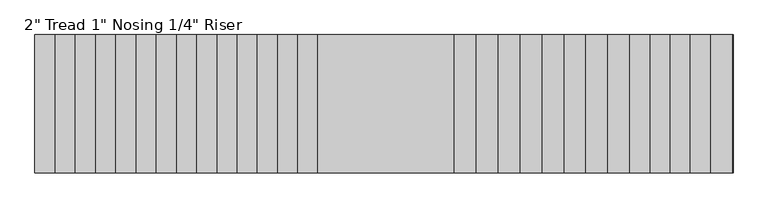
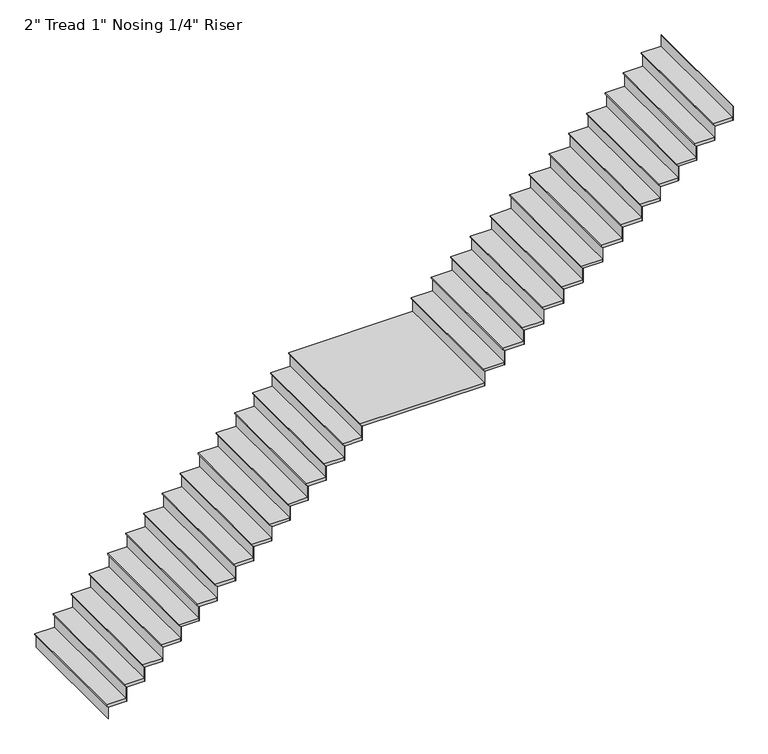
"""IFC4 building model written with IfcOpenShell, lengths in millimetres: stair flight geometry."""

from ifc_helpers import new_model, si_unit, frame, origin, place, context, project, spatial, polyline, outline, extrude, source, transform, mapped, element, save


def stair_flight_284d5711(model_context):
    return source(origin(), model_context, "Body", "SweptSolid", [
        extrude(outline(polyline([(-7674.0141901, 76712.7573777), (-7674.0141901, 76387.3573777), (-7693.0641901, 76387.3573777), (-7718.4641901, 76412.7573777), (-7724.8141901, 76412.7573777), (-7724.8141901, 76712.7573777), (-7674.0141901, 76712.7573777)])), frame((0.0, 21873.3920265, 0.0), z_axis=(0.0, 1.0, 0.0), x_axis=(0.0, 0.0, 1.0)), (0.0, 0.0, 1.0), 2050.0),
        extrude(outline(polyline([(76419.1073777, 21873.3920265), (76412.7573777, 21873.3920265), (76412.7573777, 23923.3920265), (76419.1073777, 23923.3920265), (76419.1073777, 21873.3920265)])), frame((0.0, 0.0, -7920.0), z_axis=(0.0, 0.0, 1.0), x_axis=(1.0, 0.0, 0.0)), (0.0, 0.0, 1.0), 195.1858099),
        extrude(outline(polyline([(76719.1073777, 21873.3920265), (76712.7573777, 21873.3920265), (76712.7573777, 23923.3920265), (76719.1073777, 23923.3920265), (76719.1073777, 21873.3920265)])), frame((0.0, 0.0, -7724.8141901), z_axis=(0.0, 0.0, 1.0), x_axis=(1.0, 0.0, 0.0)), (0.0, 0.0, 1.0), 245.9858099),
        extrude(outline(polyline([(-7428.0283802, 77012.7573777), (-7428.0283802, 76687.3573777), (-7447.0783802, 76687.3573777), (-7472.4783802, 76712.7573777), (-7478.8283802, 76712.7573777), (-7478.8283802, 77012.7573777), (-7428.0283802, 77012.7573777)])), frame((0.0, 21873.3920265, 0.0), z_axis=(0.0, 1.0, 0.0), x_axis=(0.0, 0.0, 1.0)), (0.0, 0.0, 1.0), 2050.0),
        extrude(outline(polyline([(77019.1073777, 21873.3920265), (77012.7573777, 21873.3920265), (77012.7573777, 23923.3920265), (77019.1073777, 23923.3920265), (77019.1073777, 21873.3920265)])), frame((0.0, 0.0, -7478.8283802), z_axis=(0.0, 0.0, 1.0), x_axis=(1.0, 0.0, 0.0)), (0.0, 0.0, 1.0), 245.9858099),
        extrude(outline(polyline([(-7182.0425703, 77312.7573777), (-7182.0425703, 76987.3573777), (-7201.0925703, 76987.3573777), (-7226.4925703, 77012.7573777), (-7232.8425703, 77012.7573777), (-7232.8425703, 77312.7573777), (-7182.0425703, 77312.7573777)])), frame((0.0, 21873.3920265, 0.0), z_axis=(0.0, 1.0, 0.0), x_axis=(0.0, 0.0, 1.0)), (0.0, 0.0, 1.0), 2050.0),
        extrude(outline(polyline([(77319.1073777, 21873.3920265), (77312.7573777, 21873.3920265), (77312.7573777, 23923.3920265), (77319.1073777, 23923.3920265), (77319.1073777, 21873.3920265)])), frame((0.0, 0.0, -7232.8425703), z_axis=(0.0, 0.0, 1.0), x_axis=(1.0, 0.0, 0.0)), (0.0, 0.0, 1.0), 245.9858099),
        extrude(outline(polyline([(-6936.0567604, 77612.7573777), (-6936.0567604, 77287.3573777), (-6955.1067604, 77287.3573777), (-6980.5067604, 77312.7573777), (-6986.8567604, 77312.7573777), (-6986.8567604, 77612.7573777), (-6936.0567604, 77612.7573777)])), frame((0.0, 21873.3920265, 0.0), z_axis=(0.0, 1.0, 0.0), x_axis=(0.0, 0.0, 1.0)), (0.0, 0.0, 1.0), 2050.0),
        extrude(outline(polyline([(77619.1073777, 21873.3920265), (77612.7573777, 21873.3920265), (77612.7573777, 23923.3920265), (77619.1073777, 23923.3920265), (77619.1073777, 21873.3920265)])), frame((0.0, 0.0, -6986.8567604), z_axis=(0.0, 0.0, 1.0), x_axis=(1.0, 0.0, 0.0)), (0.0, 0.0, 1.0), 245.9858099),
        extrude(outline(polyline([(-6690.0709505, 77912.7573777), (-6690.0709505, 77587.3573777), (-6709.1209505, 77587.3573777), (-6734.5209505, 77612.7573777), (-6740.8709505, 77612.7573777), (-6740.8709505, 77912.7573777), (-6690.0709505, 77912.7573777)])), frame((0.0, 21873.3920265, 0.0), z_axis=(0.0, 1.0, 0.0), x_axis=(0.0, 0.0, 1.0)), (0.0, 0.0, 1.0), 2050.0),
        extrude(outline(polyline([(77919.1073777, 21873.3920265), (77912.7573777, 21873.3920265), (77912.7573777, 23923.3920265), (77919.1073777, 23923.3920265), (77919.1073777, 21873.3920265)])), frame((0.0, 0.0, -6740.8709505), z_axis=(0.0, 0.0, 1.0), x_axis=(1.0, 0.0, 0.0)), (0.0, 0.0, 1.0), 245.9858099),
        extrude(outline(polyline([(-6444.0851406, 78212.7573777), (-6444.0851406, 77887.3573777), (-6463.1351406, 77887.3573777), (-6488.5351406, 77912.7573777), (-6494.8851406, 77912.7573777), (-6494.8851406, 78212.7573777), (-6444.0851406, 78212.7573777)])), frame((0.0, 21873.3920265, 0.0), z_axis=(0.0, 1.0, 0.0), x_axis=(0.0, 0.0, 1.0)), (0.0, 0.0, 1.0), 2050.0),
        extrude(outline(polyline([(78219.1073777, 21873.3920265), (78212.7573777, 21873.3920265), (78212.7573777, 23923.3920265), (78219.1073777, 23923.3920265), (78219.1073777, 21873.3920265)])), frame((0.0, 0.0, -6494.8851406), z_axis=(0.0, 0.0, 1.0), x_axis=(1.0, 0.0, 0.0)), (0.0, 0.0, 1.0), 245.9858099),
        extrude(outline(polyline([(-6198.0993307, 78512.7573777), (-6198.0993307, 78187.3573777), (-6217.1493307, 78187.3573777), (-6242.5493307, 78212.7573777), (-6248.8993307, 78212.7573777), (-6248.8993307, 78512.7573777), (-6198.0993307, 78512.7573777)])), frame((0.0, 21873.3920265, 0.0), z_axis=(0.0, 1.0, 0.0), x_axis=(0.0, 0.0, 1.0)), (0.0, 0.0, 1.0), 2050.0),
        extrude(outline(polyline([(78519.1073777, 21873.3920265), (78512.7573777, 21873.3920265), (78512.7573777, 23923.3920265), (78519.1073777, 23923.3920265), (78519.1073777, 21873.3920265)])), frame((0.0, 0.0, -6248.8993307), z_axis=(0.0, 0.0, 1.0), x_axis=(1.0, 0.0, 0.0)), (0.0, 0.0, 1.0), 245.9858099),
        extrude(outline(polyline([(-5952.1135208, 78812.7573777), (-5952.1135208, 78487.3573777), (-5971.1635208, 78487.3573777), (-5996.5635208, 78512.7573777), (-6002.9135208, 78512.7573777), (-6002.9135208, 78812.7573777), (-5952.1135208, 78812.7573777)])), frame((0.0, 21873.3920265, 0.0), z_axis=(0.0, 1.0, 0.0), x_axis=(0.0, 0.0, 1.0)), (0.0, 0.0, 1.0), 2050.0),
        extrude(outline(polyline([(78819.1073777, 21873.3920265), (78812.7573777, 21873.3920265), (78812.7573777, 23923.3920265), (78819.1073777, 23923.3920265), (78819.1073777, 21873.3920265)])), frame((0.0, 0.0, -6002.9135208), z_axis=(0.0, 0.0, 1.0), x_axis=(1.0, 0.0, 0.0)), (0.0, 0.0, 1.0), 245.9858099),
        extrude(outline(polyline([(-5706.1277109, 79112.7573777), (-5706.1277109, 78787.3573777), (-5725.1777109, 78787.3573777), (-5750.5777109, 78812.7573777), (-5756.9277109, 78812.7573777), (-5756.9277109, 79112.7573777), (-5706.1277109, 79112.7573777)])), frame((0.0, 21873.3920265, 0.0), z_axis=(0.0, 1.0, 0.0), x_axis=(0.0, 0.0, 1.0)), (0.0, 0.0, 1.0), 2050.0),
        extrude(outline(polyline([(79119.1073777, 21873.3920265), (79112.7573777, 21873.3920265), (79112.7573777, 23923.3920265), (79119.1073777, 23923.3920265), (79119.1073777, 21873.3920265)])), frame((0.0, 0.0, -5756.9277109), z_axis=(0.0, 0.0, 1.0), x_axis=(1.0, 0.0, 0.0)), (0.0, 0.0, 1.0), 245.9858099),
        extrude(outline(polyline([(-5460.141901, 79412.7573777), (-5460.141901, 79087.3573777), (-5479.191901, 79087.3573777), (-5504.591901, 79112.7573777), (-5510.941901, 79112.7573777), (-5510.941901, 79412.7573777), (-5460.141901, 79412.7573777)])), frame((0.0, 21873.3920265, 0.0), z_axis=(0.0, 1.0, 0.0), x_axis=(0.0, 0.0, 1.0)), (0.0, 0.0, 1.0), 2050.0),
        extrude(outline(polyline([(79419.1073777, 21873.3920265), (79412.7573777, 21873.3920265), (79412.7573777, 23923.3920265), (79419.1073777, 23923.3920265), (79419.1073777, 21873.3920265)])), frame((0.0, 0.0, -5510.941901), z_axis=(0.0, 0.0, 1.0), x_axis=(1.0, 0.0, 0.0)), (0.0, 0.0, 1.0), 245.9858099),
        extrude(outline(polyline([(-5214.1560911, 79712.7573777), (-5214.1560911, 79387.3573777), (-5233.2060911, 79387.3573777), (-5258.6060911, 79412.7573777), (-5264.9560911, 79412.7573777), (-5264.9560911, 79712.7573777), (-5214.1560911, 79712.7573777)])), frame((0.0, 21873.3920265, 0.0), z_axis=(0.0, 1.0, 0.0), x_axis=(0.0, 0.0, 1.0)), (0.0, 0.0, 1.0), 2050.0),
        extrude(outline(polyline([(79719.1073777, 21873.3920265), (79712.7573777, 21873.3920265), (79712.7573777, 23923.3920265), (79719.1073777, 23923.3920265), (79719.1073777, 21873.3920265)])), frame((0.0, 0.0, -5264.9560911), z_axis=(0.0, 0.0, 1.0), x_axis=(1.0, 0.0, 0.0)), (0.0, 0.0, 1.0), 245.9858099),
        extrude(outline(polyline([(-4968.1702812, 80012.7573777), (-4968.1702812, 79687.3573777), (-4987.2202812, 79687.3573777), (-5012.6202812, 79712.7573777), (-5018.9702812, 79712.7573777), (-5018.9702812, 80012.7573777), (-4968.1702812, 80012.7573777)])), frame((0.0, 21873.3920265, 0.0), z_axis=(0.0, 1.0, 0.0), x_axis=(0.0, 0.0, 1.0)), (0.0, 0.0, 1.0), 2050.0),
        extrude(outline(polyline([(80019.1073777, 21873.3920265), (80012.7573777, 21873.3920265), (80012.7573777, 23923.3920265), (80019.1073777, 23923.3920265), (80019.1073777, 21873.3920265)])), frame((0.0, 0.0, -5018.9702812), z_axis=(0.0, 0.0, 1.0), x_axis=(1.0, 0.0, 0.0)), (0.0, 0.0, 1.0), 245.9858099),
        extrude(outline(polyline([(-4722.1844713, 80312.7573777), (-4722.1844713, 79987.3573777), (-4741.2344713, 79987.3573777), (-4766.6344713, 80012.7573777), (-4772.9844713, 80012.7573777), (-4772.9844713, 80312.7573777), (-4722.1844713, 80312.7573777)])), frame((0.0, 21873.3920265, 0.0), z_axis=(0.0, 1.0, 0.0), x_axis=(0.0, 0.0, 1.0)), (0.0, 0.0, 1.0), 2050.0),
        extrude(outline(polyline([(80319.1073777, 21873.3920265), (80312.7573777, 21873.3920265), (80312.7573777, 23923.3920265), (80319.1073777, 23923.3920265), (80319.1073777, 21873.3920265)])), frame((0.0, 0.0, -4772.9844713), z_axis=(0.0, 0.0, 1.0), x_axis=(1.0, 0.0, 0.0)), (0.0, 0.0, 1.0), 245.9858099),
        extrude(outline(polyline([(-4476.1986614, 80607.7573777), (-4476.1986614, 80287.3573777), (-4495.2486614, 80287.3573777), (-4520.6486614, 80312.7573777), (-4526.9986614, 80312.7573777), (-4526.9986614, 80607.7573777), (-4476.1986614, 80607.7573777)])), frame((0.0, 21873.3920265, 0.0), z_axis=(0.0, 1.0, 0.0), x_axis=(0.0, 0.0, 1.0)), (0.0, 0.0, 1.0), 2050.0),
        extrude(outline(polyline([(80614.1073777, 21873.3920265), (80607.7573777, 21873.3920265), (80607.7573777, 23923.3920265), (80614.1073777, 23923.3920265), (80614.1073777, 21873.3920265)])), frame((0.0, 0.0, -4526.9986614), z_axis=(0.0, 0.0, 1.0), x_axis=(1.0, 0.0, 0.0)), (0.0, 0.0, 1.0), 245.9858099),
        extrude(outline(polyline([(-4230.2128515, 82632.7573777), (-4230.2128515, 80582.3573777), (-4249.2628515, 80582.3573777), (-4274.6628515, 80607.7573777), (-4281.0128515, 80607.7573777), (-4281.0128515, 82632.7573777), (-4230.2128515, 82632.7573777)])), frame((0.0, 21873.3920265, 0.0), z_axis=(0.0, 1.0, 0.0), x_axis=(0.0, 0.0, 1.0)), (0.0, 0.0, 1.0), 2050.0),
        extrude(outline(polyline([(82639.1073777, 21873.3920265), (82632.7573777, 21873.3920265), (82632.7573777, 23923.3920265), (82639.1073777, 23923.3920265), (82639.1073777, 21873.3920265)])), frame((0.0, 0.0, -4281.0128515), z_axis=(0.0, 0.0, 1.0), x_axis=(1.0, 0.0, 0.0)), (0.0, 0.0, 1.0), 245.9858099),
        extrude(outline(polyline([(-3984.2270416, 82957.7573777), (-3984.2270416, 82607.3573777), (-4003.2770416, 82607.3573777), (-4028.6770416, 82632.7573777), (-4035.0270416, 82632.7573777), (-4035.0270416, 82957.7573777), (-3984.2270416, 82957.7573777)])), frame((0.0, 21873.3920265, 0.0), z_axis=(0.0, 1.0, 0.0), x_axis=(0.0, 0.0, 1.0)), (0.0, 0.0, 1.0), 2050.0),
        extrude(outline(polyline([(82964.1073777, 21873.3920265), (82957.7573777, 21873.3920265), (82957.7573777, 23923.3920265), (82964.1073777, 23923.3920265), (82964.1073777, 21873.3920265)])), frame((0.0, 0.0, -4035.0270416), z_axis=(0.0, 0.0, 1.0), x_axis=(1.0, 0.0, 0.0)), (0.0, 0.0, 1.0), 245.9858099),
        extrude(outline(polyline([(-3738.2412316, 83282.7573777), (-3738.2412316, 82932.3573777), (-3757.2912316, 82932.3573777), (-3782.6912316, 82957.7573777), (-3789.0412316, 82957.7573777), (-3789.0412316, 83282.7573777), (-3738.2412316, 83282.7573777)])), frame((0.0, 21873.3920265, 0.0), z_axis=(0.0, 1.0, 0.0), x_axis=(0.0, 0.0, 1.0)), (0.0, 0.0, 1.0), 2050.0),
        extrude(outline(polyline([(83289.1073777, 21873.3920265), (83282.7573777, 21873.3920265), (83282.7573777, 23923.3920265), (83289.1073777, 23923.3920265), (83289.1073777, 21873.3920265)])), frame((0.0, 0.0, -3789.0412316), z_axis=(0.0, 0.0, 1.0), x_axis=(1.0, 0.0, 0.0)), (0.0, 0.0, 1.0), 245.9858099),
        extrude(outline(polyline([(-3492.2554217, 83607.7573777), (-3492.2554217, 83257.3573777), (-3511.3054217, 83257.3573777), (-3536.7054217, 83282.7573777), (-3543.0554217, 83282.7573777), (-3543.0554217, 83607.7573777), (-3492.2554217, 83607.7573777)])), frame((0.0, 21873.3920265, 0.0), z_axis=(0.0, 1.0, 0.0), x_axis=(0.0, 0.0, 1.0)), (0.0, 0.0, 1.0), 2050.0),
        extrude(outline(polyline([(83614.1073777, 21873.3920265), (83607.7573777, 21873.3920265), (83607.7573777, 23923.3920265), (83614.1073777, 23923.3920265), (83614.1073777, 21873.3920265)])), frame((0.0, 0.0, -3543.0554217), z_axis=(0.0, 0.0, 1.0), x_axis=(1.0, 0.0, 0.0)), (0.0, 0.0, 1.0), 245.9858099),
        extrude(outline(polyline([(-3246.2696118, 83932.7573777), (-3246.2696118, 83582.3573777), (-3265.3196118, 83582.3573777), (-3290.7196118, 83607.7573777), (-3297.0696118, 83607.7573777), (-3297.0696118, 83932.7573777), (-3246.2696118, 83932.7573777)])), frame((0.0, 21873.3920265, 0.0), z_axis=(0.0, 1.0, 0.0), x_axis=(0.0, 0.0, 1.0)), (0.0, 0.0, 1.0), 2050.0),
        extrude(outline(polyline([(83939.1073777, 21873.3920265), (83932.7573777, 21873.3920265), (83932.7573777, 23923.3920265), (83939.1073777, 23923.3920265), (83939.1073777, 21873.3920265)])), frame((0.0, 0.0, -3297.0696118), z_axis=(0.0, 0.0, 1.0), x_axis=(1.0, 0.0, 0.0)), (0.0, 0.0, 1.0), 245.9858099),
        extrude(outline(polyline([(-3000.2838019, 84257.7573777), (-3000.2838019, 83907.3573777), (-3019.3338019, 83907.3573777), (-3044.7338019, 83932.7573777), (-3051.0838019, 83932.7573777), (-3051.0838019, 84257.7573777), (-3000.2838019, 84257.7573777)])), frame((0.0, 21873.3920265, 0.0), z_axis=(0.0, 1.0, 0.0), x_axis=(0.0, 0.0, 1.0)), (0.0, 0.0, 1.0), 2050.0),
        extrude(outline(polyline([(84264.1073777, 21873.3920265), (84257.7573777, 21873.3920265), (84257.7573777, 23923.3920265), (84264.1073777, 23923.3920265), (84264.1073777, 21873.3920265)])), frame((0.0, 0.0, -3051.0838019), z_axis=(0.0, 0.0, 1.0), x_axis=(1.0, 0.0, 0.0)), (0.0, 0.0, 1.0), 245.9858099),
        extrude(outline(polyline([(-2754.297992, 84582.7573777), (-2754.297992, 84232.3573777), (-2773.347992, 84232.3573777), (-2798.747992, 84257.7573777), (-2805.097992, 84257.7573777), (-2805.097992, 84582.7573777), (-2754.297992, 84582.7573777)])), frame((0.0, 21873.3920265, 0.0), z_axis=(0.0, 1.0, 0.0), x_axis=(0.0, 0.0, 1.0)), (0.0, 0.0, 1.0), 2050.0),
        extrude(outline(polyline([(84589.1073777, 21873.3920265), (84582.7573777, 21873.3920265), (84582.7573777, 23923.3920265), (84589.1073777, 23923.3920265), (84589.1073777, 21873.3920265)])), frame((0.0, 0.0, -2805.097992), z_axis=(0.0, 0.0, 1.0), x_axis=(1.0, 0.0, 0.0)), (0.0, 0.0, 1.0), 245.9858099),
        extrude(outline(polyline([(-2508.3121821, 84907.7573777), (-2508.3121821, 84557.3573777), (-2527.3621821, 84557.3573777), (-2552.7621821, 84582.7573777), (-2559.1121821, 84582.7573777), (-2559.1121821, 84907.7573777), (-2508.3121821, 84907.7573777)])), frame((0.0, 21873.3920265, 0.0), z_axis=(0.0, 1.0, 0.0), x_axis=(0.0, 0.0, 1.0)), (0.0, 0.0, 1.0), 2050.0),
        extrude(outline(polyline([(84914.1073777, 21873.3920265), (84907.7573777, 21873.3920265), (84907.7573777, 23923.3920265), (84914.1073777, 23923.3920265), (84914.1073777, 21873.3920265)])), frame((0.0, 0.0, -2559.1121821), z_axis=(0.0, 0.0, 1.0), x_axis=(1.0, 0.0, 0.0)), (0.0, 0.0, 1.0), 245.9858099),
        extrude(outline(polyline([(-2262.3263722, 85232.7573777), (-2262.3263722, 84882.3573777), (-2281.3763722, 84882.3573777), (-2306.7763722, 84907.7573777), (-2313.1263722, 84907.7573777), (-2313.1263722, 85232.7573777), (-2262.3263722, 85232.7573777)])), frame((0.0, 21873.3920265, 0.0), z_axis=(0.0, 1.0, 0.0), x_axis=(0.0, 0.0, 1.0)), (0.0, 0.0, 1.0), 2050.0),
        extrude(outline(polyline([(85239.1073777, 21873.3920265), (85232.7573777, 21873.3920265), (85232.7573777, 23923.3920265), (85239.1073777, 23923.3920265), (85239.1073777, 21873.3920265)])), frame((0.0, 0.0, -2313.1263722), z_axis=(0.0, 0.0, 1.0), x_axis=(1.0, 0.0, 0.0)), (0.0, 0.0, 1.0), 245.9858099),
        extrude(outline(polyline([(-2016.3405623, 85532.7573777), (-2016.3405623, 85207.3573777), (-2035.3905623, 85207.3573777), (-2060.7905623, 85232.7573777), (-2067.1405623, 85232.7573777), (-2067.1405623, 85532.7573777), (-2016.3405623, 85532.7573777)])), frame((0.0, 21873.3920265, 0.0), z_axis=(0.0, 1.0, 0.0), x_axis=(0.0, 0.0, 1.0)), (0.0, 0.0, 1.0), 2050.0),
        extrude(outline(polyline([(85539.1073777, 21873.3920265), (85532.7573777, 21873.3920265), (85532.7573777, 23923.3920265), (85539.1073777, 23923.3920265), (85539.1073777, 21873.3920265)])), frame((0.0, 0.0, -2067.1405623), z_axis=(0.0, 0.0, 1.0), x_axis=(1.0, 0.0, 0.0)), (0.0, 0.0, 1.0), 245.9858099),
        extrude(outline(polyline([(-1770.3547524, 85832.7573777), (-1770.3547524, 85507.3573777), (-1789.4047524, 85507.3573777), (-1814.8047524, 85532.7573777), (-1821.1547524, 85532.7573777), (-1821.1547524, 85832.7573777), (-1770.3547524, 85832.7573777)])), frame((0.0, 21873.3920265, 0.0), z_axis=(0.0, 1.0, 0.0), x_axis=(0.0, 0.0, 1.0)), (0.0, 0.0, 1.0), 2050.0),
        extrude(outline(polyline([(85839.1073777, 21873.3920265), (85832.7573777, 21873.3920265), (85832.7573777, 23923.3920265), (85839.1073777, 23923.3920265), (85839.1073777, 21873.3920265)])), frame((0.0, 0.0, -1821.1547524), z_axis=(0.0, 0.0, 1.0), x_axis=(1.0, 0.0, 0.0)), (0.0, 0.0, 1.0), 245.9858099),
        extrude(outline(polyline([(-1524.3689425, 86132.7573777), (-1524.3689425, 85807.3573777), (-1543.4189425, 85807.3573777), (-1568.8189425, 85832.7573777), (-1575.1689425, 85832.7573777), (-1575.1689425, 86132.7573777), (-1524.3689425, 86132.7573777)])), frame((0.0, 21873.3920265, 0.0), z_axis=(0.0, 1.0, 0.0), x_axis=(0.0, 0.0, 1.0)), (0.0, 0.0, 1.0), 2050.0),
        extrude(outline(polyline([(86139.1073777, 21873.3920265), (86132.7573777, 21873.3920265), (86132.7573777, 23923.3920265), (86139.1073777, 23923.3920265), (86139.1073777, 21873.3920265)])), frame((0.0, 0.0, -1575.1689425), z_axis=(0.0, 0.0, 1.0), x_axis=(1.0, 0.0, 0.0)), (0.0, 0.0, 1.0), 245.9858099),
        extrude(outline(polyline([(-1278.3831326, 86432.7573777), (-1278.3831326, 86107.3573777), (-1297.4331326, 86107.3573777), (-1322.8331326, 86132.7573777), (-1329.1831326, 86132.7573777), (-1329.1831326, 86432.7573777), (-1278.3831326, 86432.7573777)])), frame((0.0, 21873.3920265, 0.0), z_axis=(0.0, 1.0, 0.0), x_axis=(0.0, 0.0, 1.0)), (0.0, 0.0, 1.0), 2050.0),
        extrude(outline(polyline([(86439.1073777, 21873.3920265), (86432.7573777, 21873.3920265), (86432.7573777, 23923.3920265), (86439.1073777, 23923.3920265), (86439.1073777, 21873.3920265)])), frame((0.0, 0.0, -1329.1831326), z_axis=(0.0, 0.0, 1.0), x_axis=(1.0, 0.0, 0.0)), (0.0, 0.0, 1.0), 245.9858099),
        extrude(outline(polyline([(86739.1073777, 21873.3920265), (86732.7573777, 21873.3920265), (86732.7573777, 23923.3920265), (86739.1073777, 23923.3920265), (86739.1073777, 21873.3920265)])), frame((0.0, 0.0, -1083.1973227), z_axis=(0.0, 0.0, 1.0), x_axis=(1.0, 0.0, 0.0)), (0.0, 0.0, 1.0), 245.9858099),
        extrude(outline(polyline([(-1032.3973227, 86732.7573777), (-1032.3973227, 86407.3573777), (-1051.4473227, 86407.3573777), (-1076.8473227, 86432.7573777), (-1083.1973227, 86432.7573777), (-1083.1973227, 86732.7573777), (-1032.3973227, 86732.7573777)])), frame((0.0, 21873.3920265, 0.0), z_axis=(0.0, 1.0, 0.0), x_axis=(0.0, 0.0, 1.0)), (0.0, 0.0, 1.0), 2050.0),
    ])


if __name__ == "__main__":
    model = new_model("IFC4")
    model_context = context("Model", 3, world=origin())
    ifc_project = project(units=[si_unit("LENGTHUNIT", "METRE", prefix="MILLI")], contexts=[model_context])
    site = spatial("IfcSite", under=ifc_project)
    building = spatial("IfcBuilding", under=site)
    placement = place(None, origin())
    stair_flight_shape = stair_flight_284d5711(model_context)
    element("IfcStairFlight", 1, ObjectType="2\" Tread 1\" Nosing 1/4\" Riser", at=placement, inside=building, context=model_context, shape_type="MappedRepresentation", body=[
        mapped(stair_flight_shape, transform((0.0, 0.0, 0.0), x_axis=(1.0, 0.0, 0.0), y_axis=(0.0, 1.0, 0.0), z_axis=(0.0, 0.0, 1.0))),
    ])
    save(model, "model.ifc")
